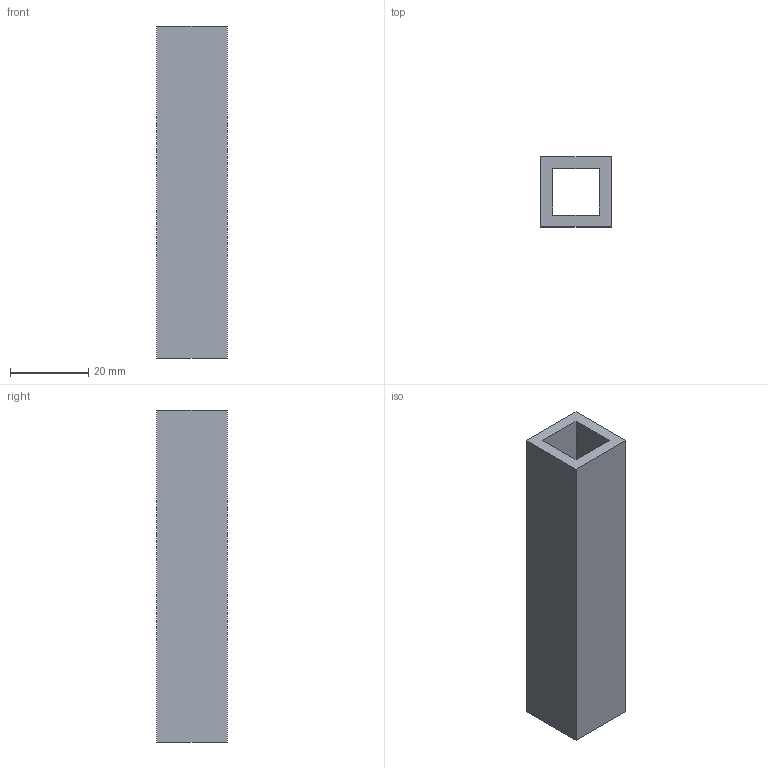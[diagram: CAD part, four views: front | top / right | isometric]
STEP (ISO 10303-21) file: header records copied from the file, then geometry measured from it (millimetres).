
FILE_DESCRIPTION(('Open CASCADE Model'),'2;1');
FILE_NAME('Open CASCADE Shape Model','2026-10-04T01:02:28',('Author'),( 'Open CASCADE'),'Open CASCADE STEP processor 8.0','Open CASCADE 8.0' ,'Unknown');
FILE_SCHEMA(('AUTOMOTIVE_DESIGN { 1 0 10303 214 1 1 1 1 }'));
Length unit declared in the file: millimetre
Products named in the file (1): Open CASCADE STEP translator 8.0 122
Bounding box: 18 x 18 x 85 mm (x, y, z)
Volume: 15300 mm3; surface area: 10560 mm2
Topology: 1 solids, 1 shells, 10 faces, 24 edges, 16 vertices
Faces by surface type: plane 10
Entity records: 598 total; most frequent: CARTESIAN_POINT 115, DIRECTION 78, LINE 56, VECTOR 56, ORIENTED_EDGE 48, PCURVE 48, DEFINITIONAL_REPRESENTATION 48, EDGE_CURVE 24
